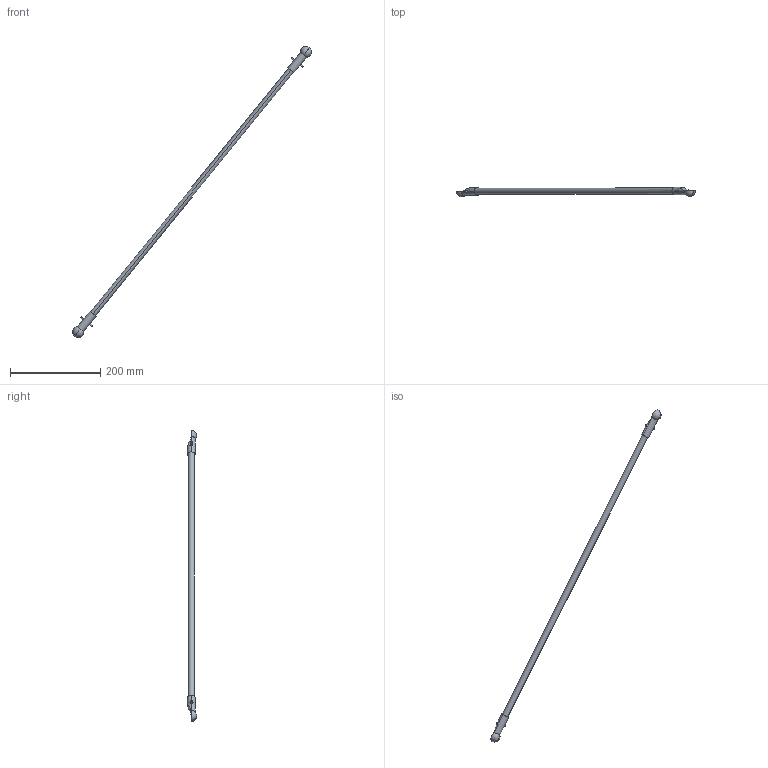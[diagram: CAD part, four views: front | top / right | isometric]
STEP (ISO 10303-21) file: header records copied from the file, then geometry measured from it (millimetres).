
FILE_DESCRIPTION (( 'STEP AP214' ), '1' );
FILE_NAME ('IRB360_X-1130-WD-3D_rev03_LA1_1_CAD.STEP', '2023-12-04T08:07:39', ( '' ), ( '' ), 'SwSTEP 2.0', 'SolidWorks 2022', '' );
FILE_SCHEMA (( 'AUTOMOTIVE_DESIGN' ));
Length unit declared in the file: millimetre
Products named in the file (1): IRB360_X-1130-WD-3D_rev03_LA1_1_CAD
Bounding box: 528.9 x 20.62 x 644.54 mm (x, y, z)
Volume: 136500.3 mm3; surface area: 41260.7 mm2
Topology: 5 solids, 5 shells, 40 faces, 90 edges, 54 vertices
Faces by surface type: cylinder 12, plane 12, sphere 8, cone 8
Entity records: 1090 total; most frequent: CARTESIAN_POINT 195, DIRECTION 192, ORIENTED_EDGE 148, AXIS2_PLACEMENT_3D 83, EDGE_CURVE 74, VERTEX_POINT 46, EDGE_LOOP 42, CIRCLE 42
